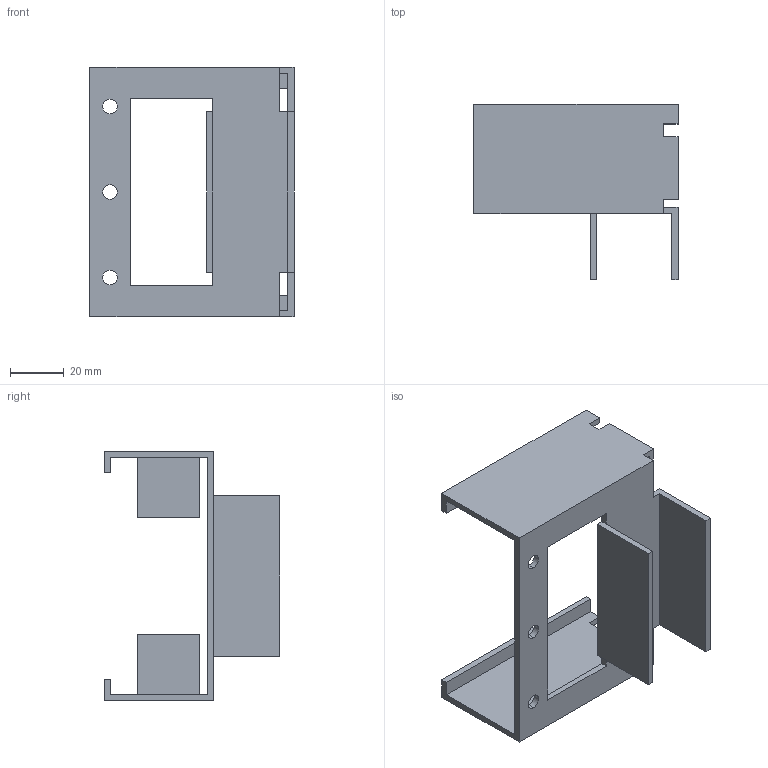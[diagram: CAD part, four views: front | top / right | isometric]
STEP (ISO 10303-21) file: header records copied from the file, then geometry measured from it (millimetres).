
FILE_DESCRIPTION (( 'STEP AP214' ), '1' );
FILE_NAME ('JB-505W.step', '2024-01-17T00:58:37', ( 'catia' ), ( 'HP Inc.' ), 'SwSTEP 2.0', 'SolidWorks 2021', '' );
FILE_SCHEMA (( 'AUTOMOTIVE_DESIGN' ));
Length unit declared in the file: millimetre
Products named in the file (1): JB-505W
Bounding box: 76.3 x 65.6 x 93.4 mm (x, y, z)
Volume: 35726.9 mm3; surface area: 33386.8 mm2
Topology: 1 solids, 1 shells, 52 faces, 148 edges, 98 vertices
Faces by surface type: plane 46, cylinder 6
Entity records: 1718 total; most frequent: CARTESIAN_POINT 299, ORIENTED_EDGE 296, DIRECTION 266, EDGE_CURVE 148, LINE 136, VECTOR 136, VERTEX_POINT 98, AXIS2_PLACEMENT_3D 65
